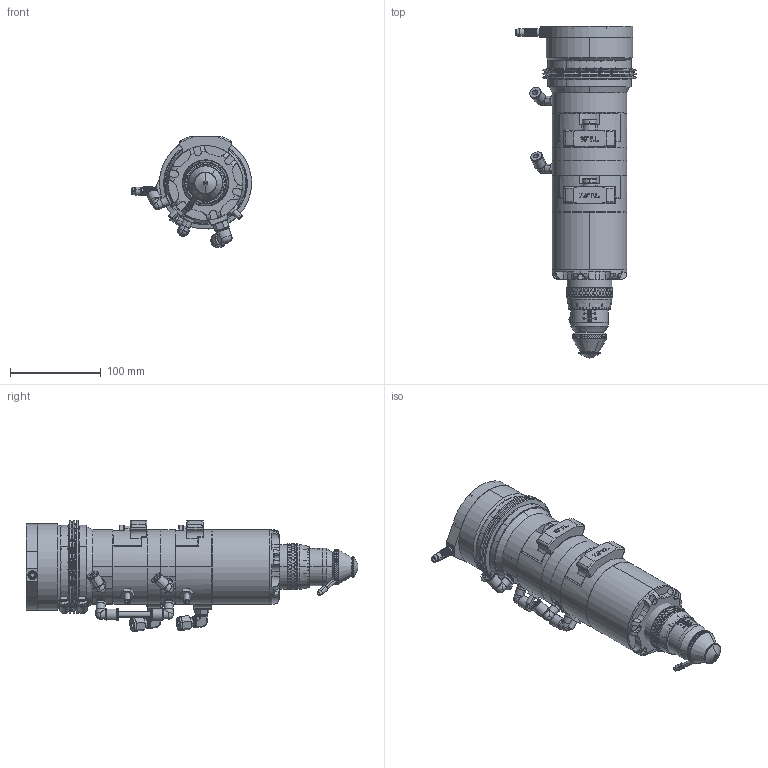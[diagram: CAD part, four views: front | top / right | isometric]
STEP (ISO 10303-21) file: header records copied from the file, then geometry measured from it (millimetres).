
FILE_DESCRIPTION (( 'STEP AP214' ), '1' );
FILE_NAME ('G5-38-191-254-AMX-CP.STEP', '2017-01-18T19:43:41', ( '' ), ( '' ), 'SwSTEP 2.0', 'SolidWorks 2017', '' );
FILE_SCHEMA (( 'AUTOMOTIVE_DESIGN' ));
Length unit declared in the file: inch
Products named in the file (1): G5-38-191-254-AMX-CP
Bounding box: 132.5 x 366.03 x 122.57 mm (x, y, z)
Volume: 1793549.1 mm3; surface area: 387367.7 mm2
Topology: 90 solids, 90 shells, 5704 faces, 14067 edges, 8745 vertices
Faces by surface type: plane 3245, cylinder 1370, cone 783, torus 164, bspline 122, sphere 20
Entity records: 176986 total; most frequent: CARTESIAN_POINT 46980, ORIENTED_EDGE 28078, DIRECTION 25437, EDGE_CURVE 14039, AXIS2_PLACEMENT_3D 9143, VERTEX_POINT 8739, VECTOR 7151, LINE 7151
